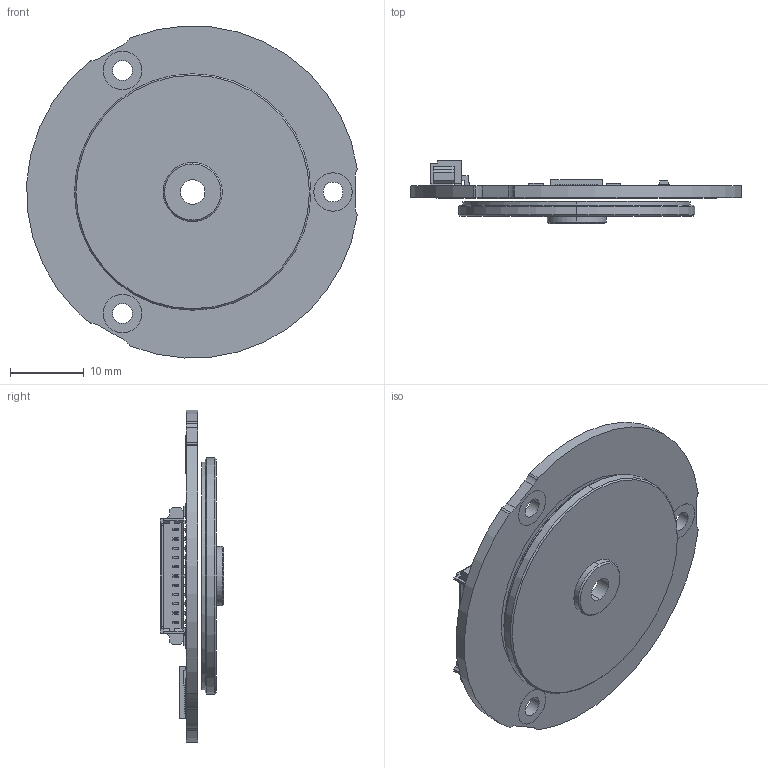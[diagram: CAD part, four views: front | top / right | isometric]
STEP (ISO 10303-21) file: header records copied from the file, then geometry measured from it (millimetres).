
FILE_DESCRIPTION (( 'STEP AP214' ), '1' );
FILE_NAME ('IND-ROT-045-A22-AL_rev01.STEP', '2023-11-03T16:16:48', ( '' ), ( '' ), 'SwSTEP 2.0', 'SolidWorks 2021', '' );
FILE_SCHEMA (( 'AUTOMOTIVE_DESIGN' ));
Length unit declared in the file: millimetre
Products named in the file (1): IND-ROT-045-A22-AL_rev01
Bounding box: 44.74 x 8.58 x 44.94 mm (x, y, z)
Volume: 3775.9 mm3; surface area: 6463.8 mm2
Topology: 18 solids, 18 shells, 1241 faces, 3332 edges, 2202 vertices
Faces by surface type: plane 637, bspline 430, cylinder 166, cone 8
Entity records: 57672 total; most frequent: CARTESIAN_POINT 14114, ORIENTED_EDGE 6664, DIRECTION 5070, EDGE_CURVE 3332, VECTOR 2754, LINE 2754, VERTEX_POINT 2202, EDGE_LOOP 1328
